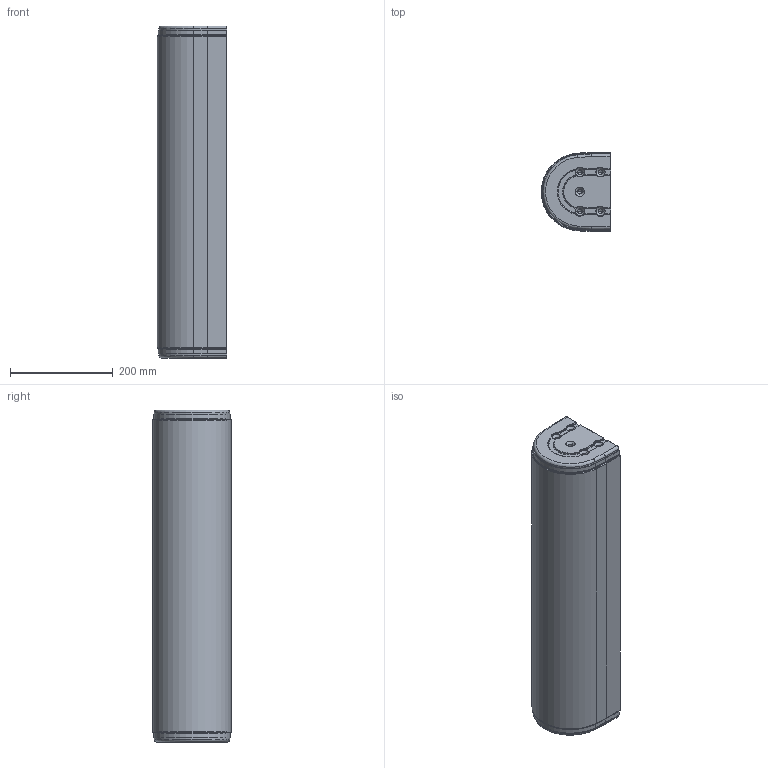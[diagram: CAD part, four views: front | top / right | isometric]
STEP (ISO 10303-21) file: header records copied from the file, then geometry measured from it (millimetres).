
FILE_DESCRIPTION (( 'STEP AP214' ), '1' );
FILE_NAME ('F2 2400 R.step', '2017-04-05T07:33:30', ( '' ), ( '' ), 'SwSTEP 2.0', 'SolidWorks 2015', '' );
FILE_SCHEMA (( 'AUTOMOTIVE_DESIGN' ));
Length unit declared in the file: millimetre
Products named in the file (1): F2 2400 R
Bounding box: 135.3 x 153.4 x 647 mm (x, y, z)
Volume: 11635404.7 mm3; surface area: 368865.9 mm2
Topology: 1 solids, 1 shells, 273 faces, 679 edges, 382 vertices
Faces by surface type: cylinder 120, plane 65, torus 40, cone 40, sphere 8
Entity records: 8646 total; most frequent: CARTESIAN_POINT 1843, DIRECTION 1385, ORIENTED_EDGE 1302, EDGE_CURVE 651, AXIS2_PLACEMENT_3D 530, VERTEX_POINT 382, VECTOR 325, LINE 325
